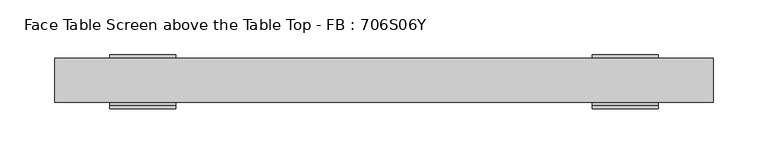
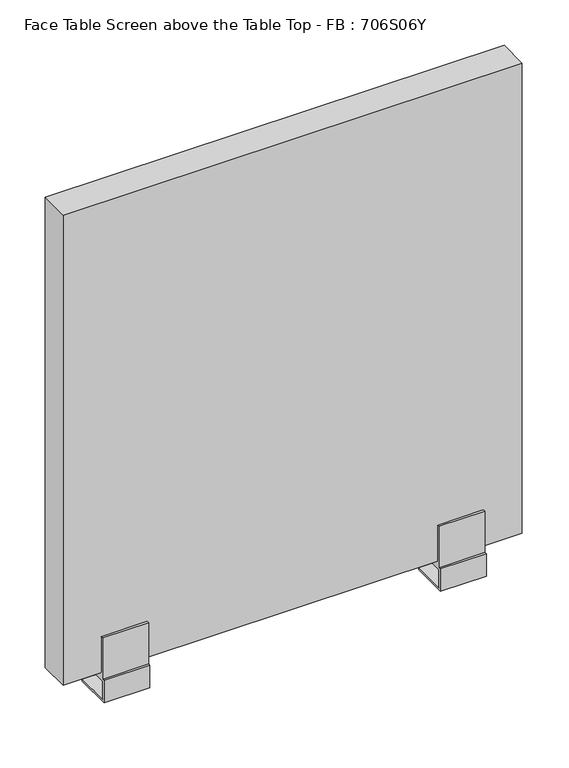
"""IFC4 building model written with IfcOpenShell, lengths in millimetres: furniture geometry, Face Table Screen above the Table Top - FB : 706S06Y."""

from ifc_helpers import new_model, si_unit, frame, origin, place, context, project, spatial, polyline, circle_curve, outline, extrude, source, transform, mapped, element, save
from ifc_brep_helpers import plane_surface, cylinder_surface, advanced_brep


def face_table_screen_above_the_table_top_fb_706s06y_4735288b(model_context):
    return source(origin(), model_context, "Body", "SolidModel", [
        advanced_brep(
        [(-225.0, 20.0, -39.4406633), (-215.0, 20.0, -39.4406633), (-215.0, 20.0, -28.0), (-225.0, 20.0, -28.0), (-250.0, 43.0, -25.0), (-250.0, -3.0, -25.0), (-190.0, -3.0, -25.0), (-190.0, 43.0, -25.0), (-250.0, -3.0, 0.0), (-250.0, 43.0, -28.0), (-250.0, -6.0, -28.0), (-250.0, -6.0, 3.0), (-250.0, -3.0, 3.0), (-250.0, -3.0, 60.0), (-250.0, 0.0, 60.0), (-250.0, 0.0, 10.0), (-250.0, 40.0, 10.0), (-250.0, 40.0, 60.0), (-250.0, 43.0, 60.0), (-250.0, 43.0, 0.0), (-190.0, -3.0, 0.0), (-190.0, 43.0, 0.0), (-190.0, 43.0, 60.0), (-190.0, 40.0, 60.0), (-190.0, 40.0, 10.0), (-190.0, 0.0, 10.0), (-190.0, 0.0, 60.0), (-190.0, -3.0, 60.0), (-190.0, -3.0, 3.0), (-190.0, -6.0, 3.0), (-190.0, -6.0, -28.0), (-190.0, 43.0, -28.0)],
        [
            (0, 1, circle_curve(frame((-220.0, 20.0, -39.4406633), z_axis=(0.0, 0.0, -1.0), x_axis=(1.0, 0.0, 0.0)), 5.0)),
            (1, 0, circle_curve(frame((-220.0, 20.0, -39.4406633), z_axis=(0.0, 0.0, -1.0), x_axis=(1.0, 0.0, 0.0)), 5.0)),
            (1, 2),
            (2, 3, circle_curve(frame((-220.0, 20.0, -28.0), z_axis=(0.0, 0.0, -1.0), x_axis=(1.0, 0.0, 0.0)), 5.0)),
            (3, 0),
            (3, 2, circle_curve(frame((-220.0, 20.0, -28.0), z_axis=(0.0, 0.0, -1.0), x_axis=(1.0, 0.0, 0.0)), 5.0)),
            (4, 5),
            (5, 6),
            (6, 7),
            (7, 4),
            (8, 5),
            (4, 9),
            (9, 10),
            (10, 11),
            (11, 12),
            (12, 13),
            (13, 14),
            (14, 15),
            (15, 16),
            (16, 17),
            (17, 18),
            (18, 19),
            (19, 8),
            (20, 21),
            (21, 22),
            (22, 23),
            (23, 24),
            (24, 25),
            (25, 26),
            (26, 27),
            (27, 28),
            (28, 29),
            (29, 30),
            (30, 31),
            (31, 7),
            (6, 20),
            (19, 21),
            (20, 8),
            (18, 22),
            (17, 23),
            (16, 24),
            (15, 25),
            (14, 26),
            (13, 27),
            (12, 28),
            (11, 29),
            (10, 30),
            (9, 31),
        ],
        [
            plane_surface(frame((-215.0, 20.0, -39.4406633), z_axis=(0.0, 0.0, -1.0), x_axis=(0.0, -1.0, 0.0))),
            cylinder_surface(frame((-220.0, 20.0, -39.4406633), z_axis=(0.0, 0.0, 1.0), x_axis=(1.0, 0.0, 0.0)), 5.0),
            plane_surface(frame((-215.0, 20.0, -25.0), z_axis=(0.0, 0.0, 1.0), x_axis=(0.0, 1.0, 0.0))),
            plane_surface(frame((-250.0, 43.0, 0.0), z_axis=(-1.0, 0.0, 0.0), x_axis=(0.0, -1.0, 0.0))),
            plane_surface(frame((-190.0, 43.0, 0.0), z_axis=(1.0, 0.0, 0.0), x_axis=(0.0, 1.0, 0.0))),
            plane_surface(frame((-190.0, -3.0, 0.0), z_axis=(0.0, 0.0, -1.0), x_axis=(-1.0, 0.0, 0.0))),
            plane_surface(frame((-190.0, 43.0, 0.0), z_axis=(0.0, 1.0, 0.0), x_axis=(-1.0, 0.0, 0.0))),
            plane_surface(frame((-190.0, 43.0, 60.0), z_axis=(0.0, 0.0, 1.0), x_axis=(-1.0, 0.0, 0.0))),
            plane_surface(frame((-190.0, 40.0, 60.0), z_axis=(0.0, -1.0, 0.0), x_axis=(-1.0, 0.0, 0.0))),
            plane_surface(frame((-190.0, 40.0, 10.0), z_axis=(0.0, 0.0, 1.0), x_axis=(-1.0, 0.0, 0.0))),
            plane_surface(frame((-190.0, 0.0, 10.0), z_axis=(0.0, 1.0, 0.0), x_axis=(-1.0, 0.0, 0.0))),
            plane_surface(frame((-190.0, 0.0, 60.0), z_axis=(0.0, 0.0, 1.0), x_axis=(-1.0, 0.0, 0.0))),
            plane_surface(frame((-190.0, -3.0, 60.0), z_axis=(0.0, -1.0, 0.0), x_axis=(-1.0, 0.0, 0.0))),
            plane_surface(frame((-190.0, -3.0, 3.0), z_axis=(0.0, 0.0, 1.0), x_axis=(-1.0, 0.0, 0.0))),
            plane_surface(frame((-190.0, -6.0, 3.0), z_axis=(0.0, -1.0, 0.0), x_axis=(-1.0, 0.0, 0.0))),
            plane_surface(frame((-190.0, -6.0, -28.0), z_axis=(0.0, 0.0, -1.0), x_axis=(-1.0, 0.0, 0.0))),
            plane_surface(frame((-190.0, 43.0, -28.0), z_axis=(0.0, 1.0, 0.0), x_axis=(-1.0, 0.0, 0.0))),
            plane_surface(frame((-190.0, -3.0, -25.0), z_axis=(0.0, 1.0, 0.0), x_axis=(-1.0, 0.0, 0.0))),
        ],
        [
            (0, [[1, 2]]),
            (1, [[-2, 3, 4, 5]]),
            (1, [[-1, -5, 6, -3]]),
            (2, [[7, 8, 9, 10]]),
            (3, [[11, -7, 12, 13, 14, 15, 16, 17, 18, 19, 20, 21, 22, 23]]),
            (4, [[24, 25, 26, 27, 28, 29, 30, 31, 32, 33, 34, 35, -9, 36]]),
            (5, [[-23, 37, -24, 38]]),
            (6, [[-22, 39, -25, -37]]),
            (7, [[-21, 40, -26, -39]]),
            (8, [[-20, 41, -27, -40]]),
            (9, [[-19, 42, -28, -41]]),
            (10, [[-18, 43, -29, -42]]),
            (11, [[-17, 44, -30, -43]]),
            (12, [[-16, 45, -31, -44]]),
            (13, [[-15, 46, -32, -45]]),
            (14, [[-14, 47, -33, -46]]),
            (15, [[-13, 48, -34, -47], [-4, -6]]),
            (16, [[-12, -10, -35, -48]]),
            (17, [[-11, -38, -36, -8]]),
        ],
    ),
        advanced_brep(
        [(215.0, 20.0, -39.4406633), (225.0, 20.0, -39.4406633), (225.0, 20.0, -28.0), (215.0, 20.0, -28.0), (190.0, 43.0, -25.0), (190.0, -3.0, -25.0), (250.0, -3.0, -25.0), (250.0, 43.0, -25.0), (190.0, -3.0, 0.0), (190.0, 43.0, -28.0), (190.0, -6.0, -28.0), (190.0, -6.0, 3.0), (190.0, -3.0, 3.0), (190.0, -3.0, 60.0), (190.0, 0.0, 60.0), (190.0, 0.0, 10.0), (190.0, 40.0, 10.0), (190.0, 40.0, 60.0), (190.0, 43.0, 60.0), (190.0, 43.0, 0.0), (250.0, -3.0, 0.0), (250.0, 43.0, 0.0), (250.0, 43.0, 60.0), (250.0, 40.0, 60.0), (250.0, 40.0, 10.0), (250.0, 0.0, 10.0), (250.0, 0.0, 60.0), (250.0, -3.0, 60.0), (250.0, -3.0, 3.0), (250.0, -6.0, 3.0), (250.0, -6.0, -28.0), (250.0, 43.0, -28.0)],
        [
            (0, 1, circle_curve(frame((220.0, 20.0, -39.4406633), z_axis=(0.0, 0.0, -1.0), x_axis=(1.0, 0.0, 0.0)), 5.0)),
            (1, 0, circle_curve(frame((220.0, 20.0, -39.4406633), z_axis=(0.0, 0.0, -1.0), x_axis=(1.0, 0.0, 0.0)), 5.0)),
            (1, 2),
            (2, 3, circle_curve(frame((220.0, 20.0, -28.0), z_axis=(0.0, 0.0, -1.0), x_axis=(1.0, 0.0, 0.0)), 5.0)),
            (3, 0),
            (3, 2, circle_curve(frame((220.0, 20.0, -28.0), z_axis=(0.0, 0.0, -1.0), x_axis=(1.0, 0.0, 0.0)), 5.0)),
            (4, 5),
            (5, 6),
            (6, 7),
            (7, 4),
            (8, 5),
            (4, 9),
            (9, 10),
            (10, 11),
            (11, 12),
            (12, 13),
            (13, 14),
            (14, 15),
            (15, 16),
            (16, 17),
            (17, 18),
            (18, 19),
            (19, 8),
            (20, 21),
            (21, 22),
            (22, 23),
            (23, 24),
            (24, 25),
            (25, 26),
            (26, 27),
            (27, 28),
            (28, 29),
            (29, 30),
            (30, 31),
            (31, 7),
            (6, 20),
            (19, 21),
            (20, 8),
            (18, 22),
            (17, 23),
            (16, 24),
            (15, 25),
            (14, 26),
            (13, 27),
            (12, 28),
            (11, 29),
            (10, 30),
            (9, 31),
        ],
        [
            plane_surface(frame((225.0, 20.0, -39.4406633), z_axis=(0.0, 0.0, -1.0), x_axis=(0.0, -1.0, 0.0))),
            cylinder_surface(frame((220.0, 20.0, -39.4406633), z_axis=(0.0, 0.0, 1.0), x_axis=(1.0, 0.0, 0.0)), 5.0),
            plane_surface(frame((225.0, 20.0, -25.0), z_axis=(0.0, 0.0, 1.0), x_axis=(0.0, 1.0, 0.0))),
            plane_surface(frame((190.0, 43.0, 0.0), z_axis=(-1.0, 0.0, 0.0), x_axis=(0.0, -1.0, 0.0))),
            plane_surface(frame((250.0, 43.0, 0.0), z_axis=(1.0, 0.0, 0.0), x_axis=(0.0, 1.0, 0.0))),
            plane_surface(frame((250.0, -3.0, 0.0), z_axis=(0.0, 0.0, -1.0), x_axis=(-1.0, 0.0, 0.0))),
            plane_surface(frame((250.0, 43.0, 0.0), z_axis=(0.0, 1.0, 0.0), x_axis=(-1.0, 0.0, 0.0))),
            plane_surface(frame((250.0, 43.0, 60.0), z_axis=(0.0, 0.0, 1.0), x_axis=(-1.0, 0.0, 0.0))),
            plane_surface(frame((250.0, 40.0, 60.0), z_axis=(0.0, -1.0, 0.0), x_axis=(-1.0, 0.0, 0.0))),
            plane_surface(frame((250.0, 40.0, 10.0), z_axis=(0.0, 0.0, 1.0), x_axis=(-1.0, 0.0, 0.0))),
            plane_surface(frame((250.0, 0.0, 10.0), z_axis=(0.0, 1.0, 0.0), x_axis=(-1.0, 0.0, 0.0))),
            plane_surface(frame((250.0, 0.0, 60.0), z_axis=(0.0, 0.0, 1.0), x_axis=(-1.0, 0.0, 0.0))),
            plane_surface(frame((250.0, -3.0, 60.0), z_axis=(0.0, -1.0, 0.0), x_axis=(-1.0, 0.0, 0.0))),
            plane_surface(frame((250.0, -3.0, 3.0), z_axis=(0.0, 0.0, 1.0), x_axis=(-1.0, 0.0, 0.0))),
            plane_surface(frame((250.0, -6.0, 3.0), z_axis=(0.0, -1.0, 0.0), x_axis=(-1.0, 0.0, 0.0))),
            plane_surface(frame((250.0, -6.0, -28.0), z_axis=(0.0, 0.0, -1.0), x_axis=(-1.0, 0.0, 0.0))),
            plane_surface(frame((250.0, 43.0, -28.0), z_axis=(0.0, 1.0, 0.0), x_axis=(-1.0, 0.0, 0.0))),
            plane_surface(frame((250.0, -3.0, -25.0), z_axis=(0.0, 1.0, 0.0), x_axis=(-1.0, 0.0, 0.0))),
        ],
        [
            (0, [[1, 2]]),
            (1, [[-2, 3, 4, 5]]),
            (1, [[-1, -5, 6, -3]]),
            (2, [[7, 8, 9, 10]]),
            (3, [[11, -7, 12, 13, 14, 15, 16, 17, 18, 19, 20, 21, 22, 23]]),
            (4, [[24, 25, 26, 27, 28, 29, 30, 31, 32, 33, 34, 35, -9, 36]]),
            (5, [[-23, 37, -24, 38]]),
            (6, [[-22, 39, -25, -37]]),
            (7, [[-21, 40, -26, -39]]),
            (8, [[-20, 41, -27, -40]]),
            (9, [[-19, 42, -28, -41]]),
            (10, [[-18, 43, -29, -42]]),
            (11, [[-17, 44, -30, -43]]),
            (12, [[-16, 45, -31, -44]]),
            (13, [[-15, 46, -32, -45]]),
            (14, [[-14, 47, -33, -46]]),
            (15, [[-13, 48, -34, -47], [-4, -6]]),
            (16, [[-12, -10, -35, -48]]),
            (17, [[-11, -38, -36, -8]]),
        ],
    ),
        extrude(outline(polyline([(300.0, 0.0), (-300.0, 0.0), (-300.0, 40.0), (300.0, 40.0), (300.0, 0.0)])), frame((0.0, 0.0, 10.0), z_axis=(0.0, 0.0, 1.0), x_axis=(1.0, 0.0, 0.0)), (0.0, 0.0, 1.0), 650.0),
    ])


if __name__ == "__main__":
    model = new_model("IFC4")
    model_context = context("Model", 3, world=origin())
    ifc_project = project(units=[si_unit("LENGTHUNIT", "METRE", prefix="MILLI")], contexts=[model_context])
    site = spatial("IfcSite", under=ifc_project)
    building = spatial("IfcBuilding", under=site)
    placement = place(None, origin())
    face_table_screen_above_the_table_top_fb_706s06y_shape = face_table_screen_above_the_table_top_fb_706s06y_4735288b(model_context)
    element("IfcFurniture", 1, ObjectType="Face Table Screen above the Table Top - FB : 706S06Y", at=placement, inside=building, context=model_context, shape_type="MappedRepresentation", body=[
        mapped(face_table_screen_above_the_table_top_fb_706s06y_shape, transform((0.0, 0.0, 0.0), x_axis=(1.0, 0.0, 0.0), y_axis=(0.0, 1.0, 0.0), z_axis=(0.0, 0.0, 1.0))),
    ])
    save(model, "model.ifc")
